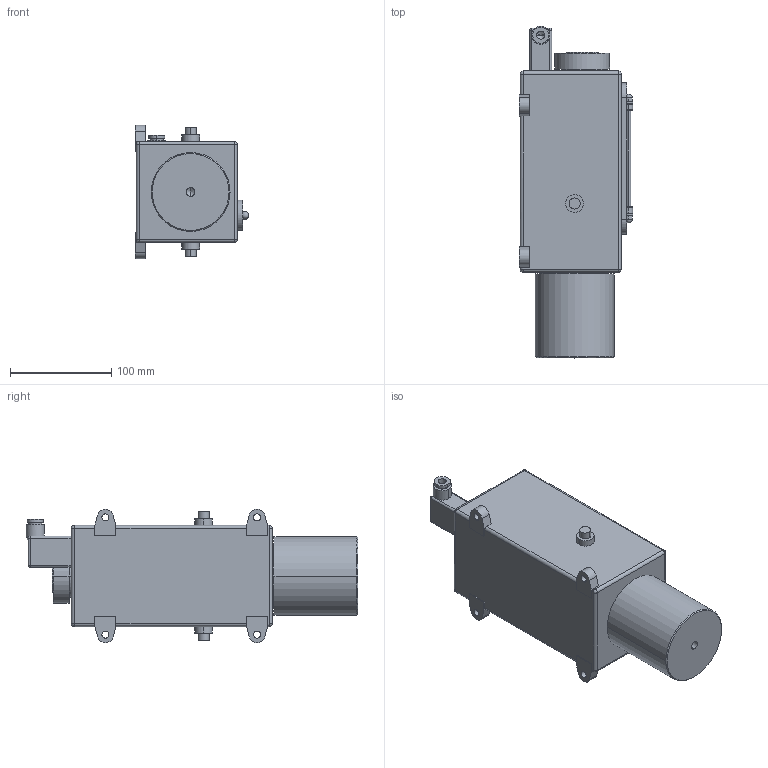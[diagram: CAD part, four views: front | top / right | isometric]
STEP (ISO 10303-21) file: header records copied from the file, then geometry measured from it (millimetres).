
FILE_DESCRIPTION((''),'2;1');
FILE_NAME('PNEUMATIC_PUMP_R10.stp','2017-06-19T14:54:12',(''),(''),'Mechanical Desktop 2008','Mechanical Desktop 2008',', , ');
FILE_SCHEMA(('AUTOMOTIVE_DESIGN { 1 2 10303 214 1 1 1 1 }'));
Length unit declared in the file: millimetre
Products named in the file (2): 6030052_3D2; PART1
Assembly tree (1 placements, depth 2):
  6030052_3D2
    PART1
Bounding box: 112.66 x 328.22 x 131.94 mm (x, y, z)
Volume: 2487943.2 mm3; surface area: 142512.4 mm2
Topology: 2 solids, 2 shells, 272 faces, 680 edges, 420 vertices
Faces by surface type: plane 124, cylinder 91, bspline 24, cone 19, sphere 14
Entity records: 8144 total; most frequent: CARTESIAN_POINT 1722, ORIENTED_EDGE 1316, DIRECTION 1294, EDGE_CURVE 658, AXIS2_PLACEMENT_3D 442, VERTEX_POINT 420, VECTOR 410, LINE 410
